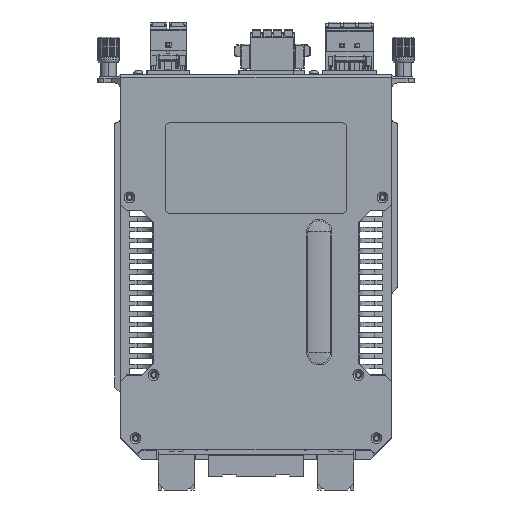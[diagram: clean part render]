
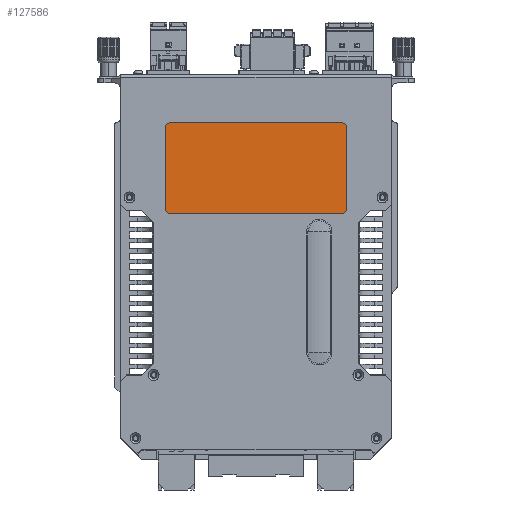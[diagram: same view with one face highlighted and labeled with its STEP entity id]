
A CAD part, front view. The second image highlights one B-rep face of the part: STEP entity #127586.
In plain terms, the highlighted planar face has unit normal (0, -1, 0).
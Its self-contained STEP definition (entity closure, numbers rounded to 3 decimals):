
#17377=CARTESIAN_POINT('',(-28.2,0.2,-17.1));
#17378=DIRECTION('',(0.,1.,0.));
#17379=DIRECTION('',(-1.,0.,0.));
#17380=AXIS2_PLACEMENT_3D('',#17377,#17378,#17379);
#17382=DIRECTION('',(1.,0.,0.));
#17383=VECTOR('',#17382,56.4);
#17384=CARTESIAN_POINT('',(-28.2,0.2,-15.1));
#17385=LINE('',#17384,#17383);
#17386=CARTESIAN_POINT('',(28.2,0.2,-17.1));
#17387=DIRECTION('',(0.,1.,0.));
#17388=DIRECTION('',(0.,0.,1.));
#17389=AXIS2_PLACEMENT_3D('',#17386,#17387,#17388);
#17391=DIRECTION('',(0.,0.,-1.));
#17392=VECTOR('',#17391,26.4);
#17393=CARTESIAN_POINT('',(30.2,0.2,-17.1));
#17394=LINE('',#17393,#17392);
#17395=CARTESIAN_POINT('',(28.2,0.2,-43.5));
#17396=DIRECTION('',(0.,1.,0.));
#17397=DIRECTION('',(1.,0.,0.));
#17398=AXIS2_PLACEMENT_3D('',#17395,#17396,#17397);
#17400=DIRECTION('',(-1.,0.,0.));
#17401=VECTOR('',#17400,56.4);
#17402=CARTESIAN_POINT('',(28.2,0.2,-45.5));
#17403=LINE('',#17402,#17401);
#17404=CARTESIAN_POINT('',(-28.2,0.2,-43.5));
#17405=DIRECTION('',(0.,1.,0.));
#17406=DIRECTION('',(0.,0.,-1.));
#17407=AXIS2_PLACEMENT_3D('',#17404,#17405,#17406);
#17409=DIRECTION('',(0.,0.,1.));
#17410=VECTOR('',#17409,26.4);
#17411=CARTESIAN_POINT('',(-30.2,0.2,-43.5));
#17412=LINE('',#17411,#17410);
#79476=CARTESIAN_POINT('',(-28.2,0.2,-15.1));
#79477=VERTEX_POINT('',#79476);
#79478=CARTESIAN_POINT('',(-30.2,0.2,-17.1));
#79479=VERTEX_POINT('',#79478);
#79480=CARTESIAN_POINT('',(30.2,0.2,-17.1));
#79481=VERTEX_POINT('',#79480);
#79482=CARTESIAN_POINT('',(28.2,0.2,-15.1));
#79483=VERTEX_POINT('',#79482);
#79484=CARTESIAN_POINT('',(28.2,0.2,-45.5));
#79485=VERTEX_POINT('',#79484);
#79486=CARTESIAN_POINT('',(30.2,0.2,-43.5));
#79487=VERTEX_POINT('',#79486);
#79488=CARTESIAN_POINT('',(-30.2,0.2,-43.5));
#79489=VERTEX_POINT('',#79488);
#79490=CARTESIAN_POINT('',(-28.2,0.2,-45.5));
#79491=VERTEX_POINT('',#79490);
#127571=CARTESIAN_POINT('',(0.,0.2,-30.3));
#127572=DIRECTION('',(0.,1.,0.));
#127573=DIRECTION('',(1.,0.,0.));
#127574=AXIS2_PLACEMENT_3D('',#127571,#127572,#127573);
#127575=PLANE('',#127574);
#127576=ORIENTED_EDGE('',*,*,#127411,.T.);
#127577=ORIENTED_EDGE('',*,*,#127433,.T.);
#127578=ORIENTED_EDGE('',*,*,#127454,.T.);
#127579=ORIENTED_EDGE('',*,*,#127475,.T.);
#127580=ORIENTED_EDGE('',*,*,#127496,.T.);
#127581=ORIENTED_EDGE('',*,*,#127517,.T.);
#127582=ORIENTED_EDGE('',*,*,#127538,.T.);
#127583=ORIENTED_EDGE('',*,*,#127558,.T.);
#127584=EDGE_LOOP('',(#127576,#127577,#127578,#127579,#127580,#127581,#127582,
#127583));
#127585=FACE_OUTER_BOUND('',#127584,.F.);
#17381=CIRCLE('',#17380,2.);
#17390=CIRCLE('',#17389,2.);
#17399=CIRCLE('',#17398,2.);
#17408=CIRCLE('',#17407,2.);
#127411=EDGE_CURVE('',#79479,#79477,#17381,.T.);
#127433=EDGE_CURVE('',#79477,#79483,#17385,.T.);
#127454=EDGE_CURVE('',#79483,#79481,#17390,.T.);
#127475=EDGE_CURVE('',#79481,#79487,#17394,.T.);
#127496=EDGE_CURVE('',#79487,#79485,#17399,.T.);
#127517=EDGE_CURVE('',#79485,#79491,#17403,.T.);
#127538=EDGE_CURVE('',#79491,#79489,#17408,.T.);
#127558=EDGE_CURVE('',#79489,#79479,#17412,.T.);
#127586=ADVANCED_FACE('',(#127585),#127575,.F.);
